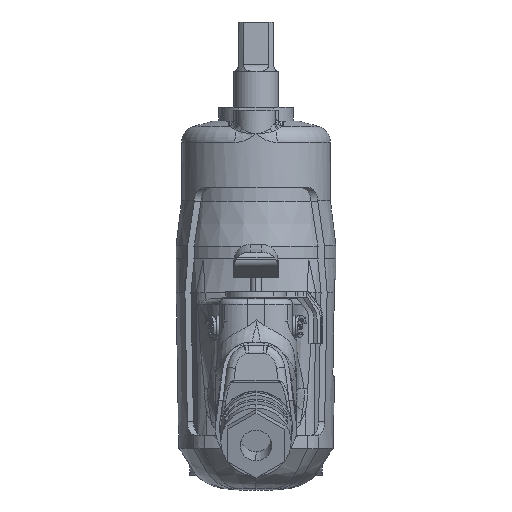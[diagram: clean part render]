
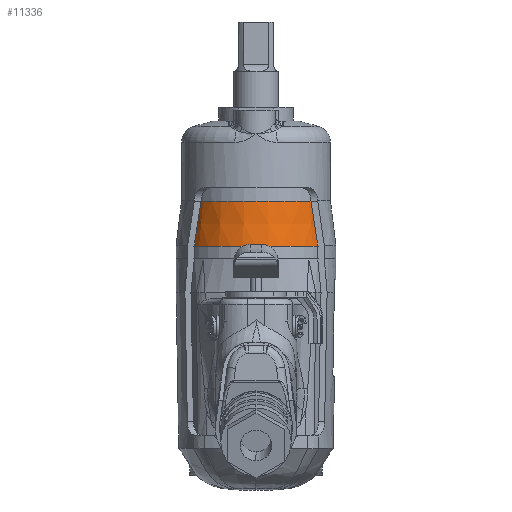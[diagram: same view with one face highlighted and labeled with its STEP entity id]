
A CAD part, front view. The second image highlights one B-rep face of the part: STEP entity #11336.
In plain terms, the highlighted conical face has half-angle 7 degrees and reference radius 27 mm.
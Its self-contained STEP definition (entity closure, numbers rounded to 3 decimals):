
#11048 = VERTEX_POINT ( 'NONE', #97393 ) ;
#11052 = VERTEX_POINT ( 'NONE', #97392 ) ;
#11151 = VERTEX_POINT ( 'NONE', #97585 ) ;
#11152 = VERTEX_POINT ( 'NONE', #97584 ) ;
#11155 = EDGE_CURVE ( 'NONE', #11151, #11052, #97583, .T. ) ;
#11160 = EDGE_CURVE ( 'NONE', #11152, #11048, #97579, .T. ) ;
#11336 = ADVANCED_FACE ( 'NONE', ( #97779 ), #97778, .T. ) ;
#11339 = EDGE_LOOP ( 'NONE', ( #11341, #11343, #11344, #11418 ) ) ;
#11341 = ORIENTED_EDGE ( 'NONE', *, *, #11155, .F. ) ;
#11343 = ORIENTED_EDGE ( 'NONE', *, *, #11356, .F. ) ;
#11344 = ORIENTED_EDGE ( 'NONE', *, *, #11160, .T. ) ;
#11356 = EDGE_CURVE ( 'NONE', #11152, #11151, #97838, .T. ) ;
#11418 = ORIENTED_EDGE ( 'NONE', *, *, #11419, .T. ) ;
#11419 = EDGE_CURVE ( 'NONE', #11048, #11052, #97935, .T. ) ;
#97392 = CARTESIAN_POINT ( 'NONE',  ( 27., 0., -50.3 ) ) ;
#97393 = CARTESIAN_POINT ( 'NONE',  ( -27., 0., -50.3 ) ) ;
#97576 = DIRECTION ( 'NONE',  ( -0.122, 0., -0.993 ) ) ;
#97577 = VECTOR ( 'NONE', #97576, 1000. ) ;
#97578 = CARTESIAN_POINT ( 'NONE',  ( -27., 0., -50.3 ) ) ;
#97579 = LINE ( 'NONE', #97578, #97577 ) ;
#97580 = DIRECTION ( 'NONE',  ( 0.122, 0., -0.993 ) ) ;
#97581 = VECTOR ( 'NONE', #97580, 1000. ) ;
#97582 = CARTESIAN_POINT ( 'NONE',  ( 27., 0., -50.3 ) ) ;
#97583 = LINE ( 'NONE', #97582, #97581 ) ;
#97584 = CARTESIAN_POINT ( 'NONE',  ( -25., 0., -34.011 ) ) ;
#97585 = CARTESIAN_POINT ( 'NONE',  ( 25., 0., -34.011 ) ) ;
#97776 = CARTESIAN_POINT ( 'NONE',  ( 0., 0., -50.3 ) ) ;
#97778 = CONICAL_SURFACE ( 'NONE', #97819, 27., 0.122 ) ;
#97779 = FACE_OUTER_BOUND ( 'NONE', #11339, .T. ) ;
#97805 = DIRECTION ( 'NONE',  ( -1., 0., 0. ) ) ;
#97806 = DIRECTION ( 'NONE',  ( 0., 0., -1. ) ) ;
#97819 = AXIS2_PLACEMENT_3D ( 'NONE', #97776, #97806, #97805 ) ;
#97835 = DIRECTION ( 'NONE',  ( 1., 0., 0. ) ) ;
#97836 = DIRECTION ( 'NONE',  ( 0., 0., 1. ) ) ;
#97837 = AXIS2_PLACEMENT_3D ( 'NONE', #97843, #97836, #97835 ) ;
#97838 = CIRCLE ( 'NONE', #97837, 25. ) ;
#97843 = CARTESIAN_POINT ( 'NONE',  ( 0., 0., -34.011 ) ) ;
#97931 = DIRECTION ( 'NONE',  ( 1., 0., 0. ) ) ;
#97932 = DIRECTION ( 'NONE',  ( 0., 0., 1. ) ) ;
#97933 = CARTESIAN_POINT ( 'NONE',  ( 0., 0., -50.3 ) ) ;
#97934 = AXIS2_PLACEMENT_3D ( 'NONE', #97933, #97932, #97931 ) ;
#97935 = CIRCLE ( 'NONE', #97934, 27. ) ;
